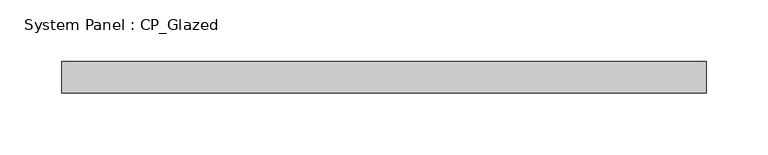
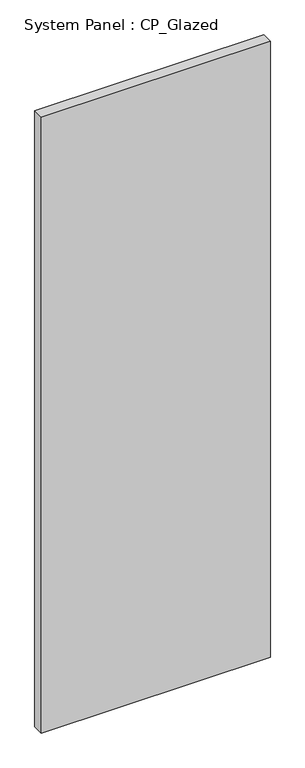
"""IFC4 building model written with IfcOpenShell, lengths in millimetres: plate geometry, System Panel : CP_Glazed."""

from ifc_helpers import new_model, si_unit, origin, origin_with_axes, place, context, project, spatial, polyline, outline, extrude, source, transform, mapped, element, save


def system_panel_cp_glazed_da6e27dd(model_context):
    return source(origin(), model_context, "Body", "SweptSolid", [
        extrude(outline(polyline([(260.35, 19.05), (-260.35, 19.05), (-260.35, 44.45), (260.35, 44.45), (260.35, 19.05)])), origin_with_axes(), (0.0, 0.0, 1.0), 1479.55),
    ])


if __name__ == "__main__":
    model = new_model("IFC4")
    model_context = context("Model", 3, world=origin())
    ifc_project = project(units=[si_unit("LENGTHUNIT", "METRE", prefix="MILLI")], contexts=[model_context])
    site = spatial("IfcSite", under=ifc_project)
    building = spatial("IfcBuilding", under=site)
    placement = place(None, origin())
    system_panel_cp_glazed_shape = system_panel_cp_glazed_da6e27dd(model_context)
    element("IfcPlate", 1, ObjectType="System Panel : CP_Glazed", at=placement, inside=building, context=model_context, shape_type="MappedRepresentation", body=[
        mapped(system_panel_cp_glazed_shape, transform((0.0, 0.0, 0.0), x_axis=(1.0, 0.0, 0.0), y_axis=(0.0, 1.0, 0.0), z_axis=(0.0, 0.0, 1.0))),
    ])
    save(model, "model.ifc")
